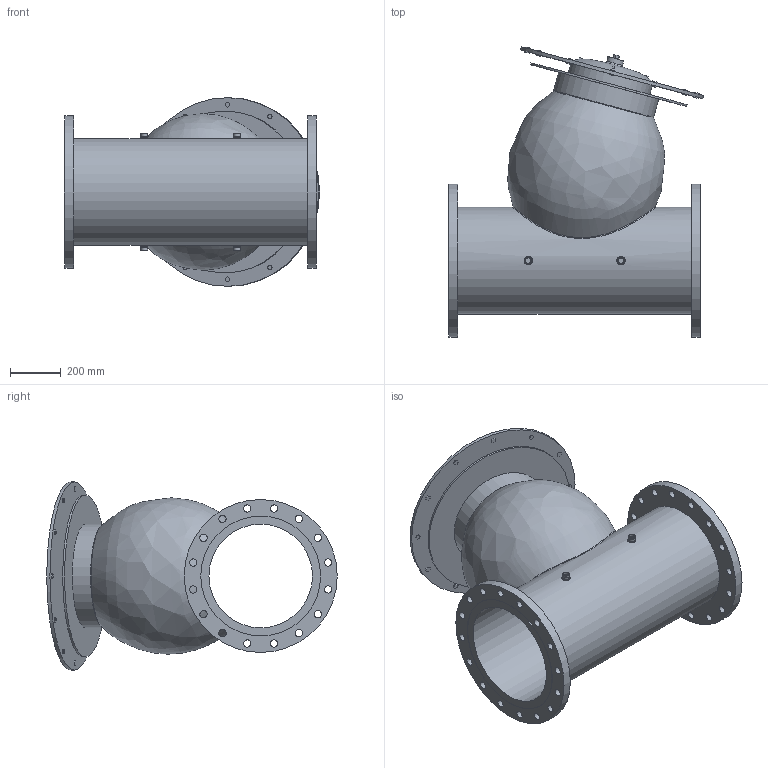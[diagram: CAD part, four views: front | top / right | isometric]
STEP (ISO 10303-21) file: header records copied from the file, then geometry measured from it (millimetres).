
FILE_DESCRIPTION(/* description */ (''),/* implementation_level */ '2;1');
FILE_NAME(/* name */ 'C:\Series 867-7UF\Series 867-7UF final\step\Victaulic_FP-Bermad_Valve Pressure Relief_Series 867-7UF (FLG 150).stp',/* time_stamp */ '2021-09-02T16:02:44+06:00',/* author */ ('kkamble'),/* organization */ (''),/* preprocessor_version */ 'ST-DEVELOPER v16.1',/* originating_system */ 'Autodesk Inventor 2016',/* authorisation */ '');
FILE_SCHEMA (('AUTOMOTIVE_DESIGN { 1 0 10303 214 3 1 1 }'));
Length unit declared in the file: inch
Products named in the file (1): Victaulic_FP-Bermad_Valve Pressure Relief_Series 867-7UF (FLG 150)
Bounding box: 1000.86 x 1138.99 x 740.16 mm (x, y, z)
Volume: 152866562.8 mm3; surface area: 5365226.5 mm2
Topology: 1 solids, 1 shells, 274 faces, 682 edges, 454 vertices
Faces by surface type: plane 214, cylinder 51, bspline 7, torus 2
Full cylindrical faces by diameter (mm): 21.336 x4, 26.873 x4, 28.575 x32, 63.5 x1, 330.2 x1, 406.4 x2, 419.1 x1, 469.9 x2, 599.948 x2, 635 x1, 740.156 x1
Entity records: 8928 total; most frequent: CARTESIAN_POINT 2268, ORIENTED_EDGE 1246, DIRECTION 1236, EDGE_CURVE 623, LINE 482, VECTOR 482, VERTEX_POINT 449, EDGE_LOOP 438
